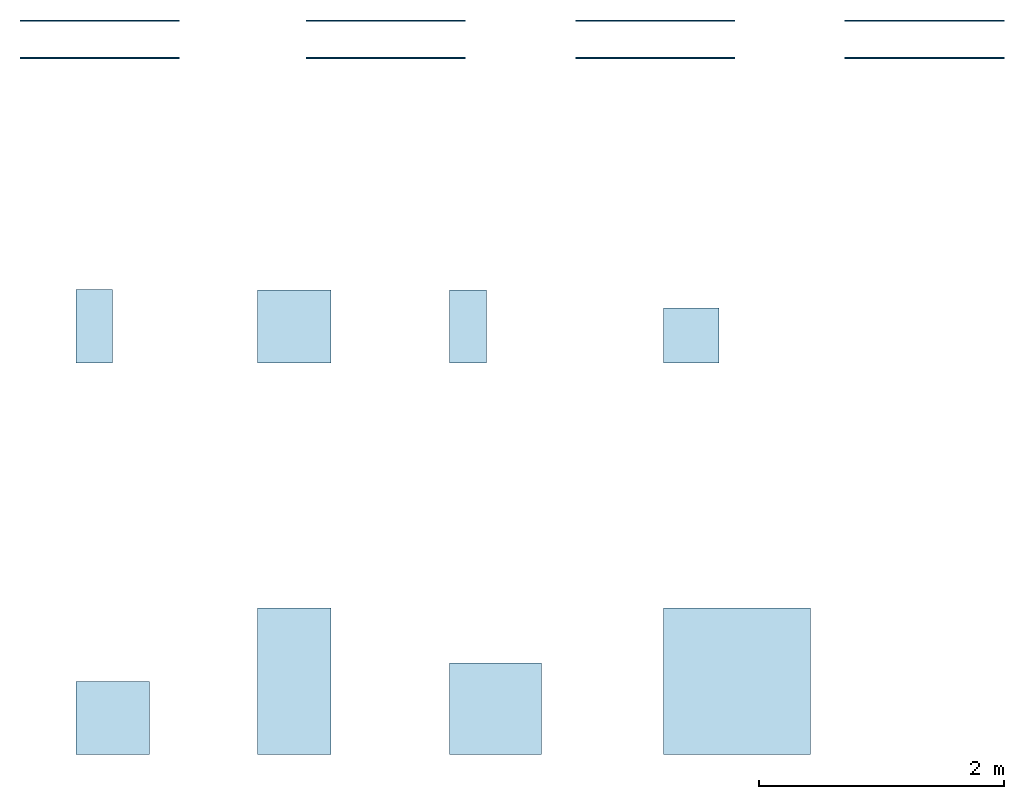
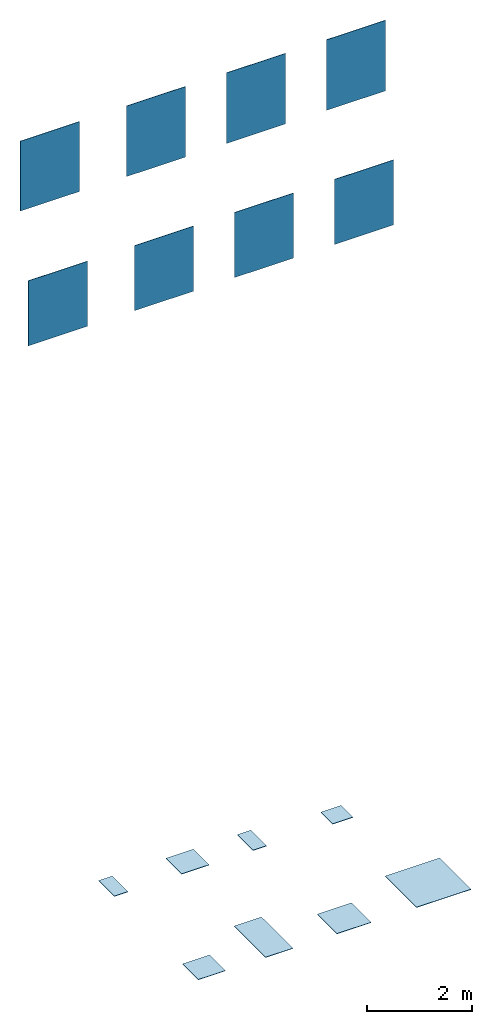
# One storey: 8 slabs, 8 walls.
"""IFC2X3 building model written with IfcOpenShell, lengths in millimetres."""

from ifc_helpers import new_model, entity, si_unit, converted_unit, derived_unit, direction, frame, frame_2d, origin, origin_2d_with_axis, place, context, subcontext, project, spatial, rectangle, extrude, material, layer, layer_set, layer_usage, type_object, element, save


model = new_model("IFC2X3")

# Units and contexts
model_context = context("Model", 3, precision=0.01, world=origin(), true_north=direction((6.12303176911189e-17, 1.0)))
body_context = subcontext(model_context, "Body", "Model", "MODEL_VIEW")
ifc_project = project(units=[si_unit("LENGTHUNIT", "METRE", prefix="MILLI"), si_unit("AREAUNIT", "SQUARE_METRE"), si_unit("VOLUMEUNIT", "CUBIC_METRE"), converted_unit("PLANEANGLEUNIT", "DEGREE", entity("IfcRatioMeasure", 0.0174532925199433), si_unit("PLANEANGLEUNIT", "RADIAN"), dimensions=[0, 0, 0, 0, 0, 0, 0]), si_unit("MASSUNIT", "GRAM", prefix="KILO"), derived_unit("MASSDENSITYUNIT", [(si_unit("MASSUNIT", "GRAM", prefix="KILO"), 1), (si_unit("LENGTHUNIT", "METRE"), -3)]), derived_unit("MOMENTOFINERTIAUNIT", [(si_unit("LENGTHUNIT", "METRE"), 4)]), si_unit("TIMEUNIT", "SECOND"), si_unit("FREQUENCYUNIT", "HERTZ"), si_unit("THERMODYNAMICTEMPERATUREUNIT", "DEGREE_CELSIUS"), derived_unit("THERMALTRANSMITTANCEUNIT", [(si_unit("MASSUNIT", "GRAM", prefix="KILO"), 1), (si_unit("THERMODYNAMICTEMPERATUREUNIT", "KELVIN"), -1), (si_unit("TIMEUNIT", "SECOND"), -3)]), derived_unit("VOLUMETRICFLOWRATEUNIT", [(si_unit("LENGTHUNIT", "METRE"), 3), (si_unit("TIMEUNIT", "SECOND"), -1)]), si_unit("ELECTRICCURRENTUNIT", "AMPERE"), si_unit("ELECTRICVOLTAGEUNIT", "VOLT"), si_unit("POWERUNIT", "WATT"), si_unit("FORCEUNIT", "NEWTON", prefix="KILO"), si_unit("ILLUMINANCEUNIT", "LUX"), si_unit("LUMINOUSFLUXUNIT", "LUMEN"), si_unit("LUMINOUSINTENSITYUNIT", "CANDELA"), derived_unit("USERDEFINED", [(si_unit("MASSUNIT", "GRAM", prefix="KILO"), -1), (si_unit("LENGTHUNIT", "METRE"), -2), (si_unit("TIMEUNIT", "SECOND"), 3), (si_unit("LUMINOUSFLUXUNIT", "LUMEN"), 1)]), derived_unit("LINEARVELOCITYUNIT", [(si_unit("LENGTHUNIT", "METRE"), 1), (si_unit("TIMEUNIT", "SECOND"), -1)]), si_unit("PRESSUREUNIT", "PASCAL"), derived_unit("USERDEFINED", [(si_unit("LENGTHUNIT", "METRE"), -2), (si_unit("MASSUNIT", "GRAM", prefix="KILO"), 1), (si_unit("TIMEUNIT", "SECOND"), -2)]), derived_unit("LINEARFORCEUNIT", [(si_unit("MASSUNIT", "GRAM", prefix="KILO"), 1), (si_unit("LENGTHUNIT", "METRE"), 1), (si_unit("TIMEUNIT", "SECOND"), -2), (si_unit("LENGTHUNIT", "METRE"), -1)]), derived_unit("PLANARFORCEUNIT", [(si_unit("MASSUNIT", "GRAM", prefix="KILO"), 1), (si_unit("LENGTHUNIT", "METRE"), 1), (si_unit("TIMEUNIT", "SECOND"), -2), (si_unit("LENGTHUNIT", "METRE"), -2)])], contexts=[model_context])

# Site, building, storey
site_placement = place(None, origin())
site = spatial("IfcSite", under=ifc_project, at=site_placement, Name="Default", CompositionType="ELEMENT")
building_placement = place(site_placement, origin())
building = spatial("IfcBuilding", under=site, at=building_placement, CompositionType="ELEMENT")
storey_placement = place(building_placement, origin())
storey = spatial("IfcBuildingStorey", under=building, at=storey_placement, Name="Level 0", CompositionType="ELEMENT", Elevation=0.0)

# Slabs
ifc_material_1 = material(Name="Creos-Mud-30x60 ND05")
ifc_layer_1 = layer(ifc_material_1, 9.0)
ifc_material_2 = material(Name="<Unnamed>")
ifc_layer_2 = layer(ifc_material_2, 1.0)
ifc_layer_set_1 = layer_set([ifc_layer_1, ifc_layer_2], Name="Floor:Floor_Tiles_Refin-Creos-Mud-30x60 ND05")
ifc_layer_usage_1 = layer_usage(ifc_layer_set_1, "AXIS3", "POSITIVE", 0.0)
slab_type_1 = type_object("IfcSlabType", Name="Floor:Floor_Tiles_Refin-Creos-Mud-30x60 ND05", PredefinedType="FLOOR", material=ifc_layer_set_1)
slab_1_placement = place(storey_placement, origin())
element("IfcSlab", 1, at=slab_1_placement, inside=storey, type_object=slab_type_1, material=ifc_layer_usage_1, Name="Floor:Floor_Tiles_Refin-Creos-Mud-30x60 ND05", ObjectType="Floor:Floor_Tiles_Refin-Creos-Mud-30x60 ND05", PredefinedType="FLOOR", context=body_context, shape_type="SweptSolid", body=[
    extrude(rectangle(XDim=600.0, YDim=300.0, at=frame_2d((0.0, -5.40012479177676e-13), x_axis=(1.0, 0.0))), frame((6524.37520617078, 5639.4623742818, 0.0), z_axis=(0.0, 0.0, -1.0), x_axis=(0.0, 1.0, 0.0)), (0.0, 0.0, 1.0), 10.0),
])
ifc_material_3 = material(Name="Creos-Mud-60x60 NA56")
ifc_layer_3 = layer(ifc_material_3, 9.0)
ifc_layer_4 = layer(ifc_material_2, 1.0)
ifc_layer_set_2 = layer_set([ifc_layer_3, ifc_layer_4], Name="Floor:Floor_Tiles_Refin-Creos-Mud-60x60 NA56")
ifc_layer_usage_2 = layer_usage(ifc_layer_set_2, "AXIS3", "POSITIVE", 0.0)
slab_type_2 = type_object("IfcSlabType", Name="Floor:Floor_Tiles_Refin-Creos-Mud-60x60 NA56", PredefinedType="FLOOR", material=ifc_layer_set_2)
slab_2_placement = place(storey_placement, origin())
element("IfcSlab", 2, at=slab_2_placement, inside=storey, type_object=slab_type_2, material=ifc_layer_usage_2, Name="Floor:Floor_Tiles_Refin-Creos-Mud-60x60 NA56", ObjectType="Floor:Floor_Tiles_Refin-Creos-Mud-60x60 NA56", PredefinedType="FLOOR", context=body_context, shape_type="SweptSolid", body=[
    extrude(rectangle(XDim=600.0, YDim=600.0, at=frame_2d((0.0, -1.08002495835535e-12), x_axis=(1.0, 0.0))), frame((8157.39240545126, 5638.41920639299, 0.0), z_axis=(0.0, 0.0, -1.0), x_axis=(0.0, 1.0, 0.0)), (0.0, 0.0, 1.0), 10.0),
])
ifc_material_4 = material(Name="Creos-Mud-Soft-30x60 ND06")
ifc_layer_5 = layer(ifc_material_4, 9.0)
ifc_layer_6 = layer(ifc_material_2, 1.0)
ifc_layer_set_3 = layer_set([ifc_layer_5, ifc_layer_6], Name="Floor:Floor_Tiles_Refin-Creos-Mud-Soft-30x60 ND06")
ifc_layer_usage_3 = layer_usage(ifc_layer_set_3, "AXIS3", "POSITIVE", 0.0)
slab_type_3 = type_object("IfcSlabType", Name="Floor:Floor_Tiles_Refin-Creos-Mud-Soft-30x60 ND06", PredefinedType="FLOOR", material=ifc_layer_set_3)
slab_3_placement = place(storey_placement, origin())
element("IfcSlab", 3, at=slab_3_placement, inside=storey, type_object=slab_type_3, material=ifc_layer_usage_3, Name="Floor:Floor_Tiles_Refin-Creos-Mud-Soft-30x60 ND06", ObjectType="Floor:Floor_Tiles_Refin-Creos-Mud-Soft-30x60 ND06", PredefinedType="FLOOR", context=body_context, shape_type="SweptSolid", body=[
    extrude(rectangle(XDim=600.0, YDim=300.000000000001, at=origin_2d_with_axis()), frame((9577.18614186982, 5638.41920639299, 0.0), z_axis=(0.0, 0.0, -1.0), x_axis=(0.0, 1.0, 0.0)), (0.0, 0.0, 1.0), 10.0),
])
ifc_material_5 = material(Name="Creos-Mud-Soft-60x60 NA57")
ifc_layer_7 = layer(ifc_material_5, 9.0)
ifc_layer_8 = layer(ifc_material_2, 1.0)
ifc_layer_set_4 = layer_set([ifc_layer_7, ifc_layer_8], Name="Floor:Floor_Tiles_Refin-Creos-Mud-Soft-60x60 NA57")
ifc_layer_usage_4 = layer_usage(ifc_layer_set_4, "AXIS3", "POSITIVE", 0.0)
slab_type_4 = type_object("IfcSlabType", Name="Floor:Floor_Tiles_Refin-Creos-Mud-Soft-60x60 NA57", PredefinedType="FLOOR", material=ifc_layer_set_4)
slab_4_placement = place(storey_placement, origin())
element("IfcSlab", 4, at=slab_4_placement, inside=storey, type_object=slab_type_4, material=ifc_layer_usage_4, Name="Floor:Floor_Tiles_Refin-Creos-Mud-Soft-60x60 NA57", ObjectType="Floor:Floor_Tiles_Refin-Creos-Mud-Soft-60x60 NA57", PredefinedType="FLOOR", context=body_context, shape_type="SweptSolid", body=[
    extrude(rectangle(XDim=600.0, YDim=600.0, at=frame_2d((0.0, 1.08002495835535e-12), x_axis=(1.0, 0.0))), frame((6674.37520617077, 2439.46237428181, 0.0), z_axis=(0.0, 0.0, -1.0), x_axis=(0.0, 1.0, 0.0)), (0.0, 0.0, 1.0), 10.0),
])
ifc_material_6 = material(Name="Creos-Mud-Soft-75x75 NU54")
ifc_layer_9 = layer(ifc_material_6, 9.0)
ifc_layer_10 = layer(ifc_material_2, 1.0)
ifc_layer_set_5 = layer_set([ifc_layer_9, ifc_layer_10], Name="Floor:Floor_Tiles_Refin-Creos-Mud-Soft-75x75 NU54")
ifc_layer_usage_5 = layer_usage(ifc_layer_set_5, "AXIS3", "POSITIVE", 0.0)
slab_type_5 = type_object("IfcSlabType", Name="Floor:Floor_Tiles_Refin-Creos-Mud-Soft-75x75 NU54", PredefinedType="FLOOR", material=ifc_layer_set_5)
slab_5_placement = place(storey_placement, origin())
element("IfcSlab", 5, at=slab_5_placement, inside=storey, type_object=slab_type_5, material=ifc_layer_usage_5, Name="Floor:Floor_Tiles_Refin-Creos-Mud-Soft-75x75 NU54", ObjectType="Floor:Floor_Tiles_Refin-Creos-Mud-Soft-75x75 NU54", PredefinedType="FLOOR", context=body_context, shape_type="SweptSolid", body=[
    extrude(rectangle(XDim=750.0, YDim=750.000000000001, at=frame_2d((-2.55795384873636e-13, 1.08002495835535e-12), x_axis=(1.0, 0.0))), frame((9802.18614186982, 2514.4623742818, 0.0), z_axis=(0.0, 0.0, -1.0), x_axis=(0.0, 1.0, 0.0)), (0.0, 0.0, 1.0), 10.0),
])
ifc_material_7 = material(Name="Creos-Mud-Soft-45x45 ND70")
ifc_layer_11 = layer(ifc_material_7, 9.5)
ifc_layer_12 = layer(ifc_material_2, 1.0)
ifc_layer_set_6 = layer_set([ifc_layer_11, ifc_layer_12], Name="Floor:Floor_Tiles_Refin-Creos-Mud-Soft-45x45 ND70")
ifc_layer_usage_6 = layer_usage(ifc_layer_set_6, "AXIS3", "POSITIVE", 0.0)
slab_type_6 = type_object("IfcSlabType", Name="Floor:Floor_Tiles_Refin-Creos-Mud-Soft-45x45 ND70", PredefinedType="FLOOR", material=ifc_layer_set_6)
slab_6_placement = place(storey_placement, origin())
element("IfcSlab", 6, at=slab_6_placement, inside=storey, type_object=slab_type_6, material=ifc_layer_usage_6, Name="Floor:Floor_Tiles_Refin-Creos-Mud-Soft-45x45 ND70", ObjectType="Floor:Floor_Tiles_Refin-Creos-Mud-Soft-45x45 ND70", PredefinedType="FLOOR", context=body_context, shape_type="SweptSolid", body=[
    extrude(rectangle(XDim=450.000000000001, YDim=449.999999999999, at=frame_2d((-5.40012479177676e-13, -1.08002495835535e-12), x_axis=(1.0, 0.0))), frame((11402.1861418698, 5563.41920639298, 0.0), z_axis=(0.0, 0.0, -1.0), x_axis=(0.0, 1.0, 0.0)), (0.0, 0.0, 1.0), 10.5),
])
ifc_material_8 = material(Name="Creos-Mud-Soft-60x120 NA68")
ifc_layer_13 = layer(ifc_material_8, 9.0)
ifc_layer_14 = layer(ifc_material_2, 1.0)
ifc_layer_set_7 = layer_set([ifc_layer_13, ifc_layer_14], Name="Floor:Floor_Tiles_Refin-Creos-Mud-Soft-60x120 NA68")
ifc_layer_usage_7 = layer_usage(ifc_layer_set_7, "AXIS3", "POSITIVE", 0.0)
slab_type_7 = type_object("IfcSlabType", Name="Floor:Floor_Tiles_Refin-Creos-Mud-Soft-60x120 NA68", PredefinedType="FLOOR", material=ifc_layer_set_7)
slab_7_placement = place(storey_placement, origin())
element("IfcSlab", 7, at=slab_7_placement, inside=storey, type_object=slab_type_7, material=ifc_layer_usage_7, Name="Floor:Floor_Tiles_Refin-Creos-Mud-Soft-60x120 NA68", ObjectType="Floor:Floor_Tiles_Refin-Creos-Mud-Soft-60x120 NA68", PredefinedType="FLOOR", context=body_context, shape_type="SweptSolid", body=[
    extrude(rectangle(XDim=1200.0, YDim=600.0, at=frame_2d((0.0, 1.08002495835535e-12), x_axis=(1.0, 0.0))), frame((8157.39240545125, 2739.46237428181, 0.0), z_axis=(0.0, 0.0, -1.0), x_axis=(0.0, 1.0, 0.0)), (0.0, 0.0, 1.0), 10.0),
])
ifc_material_9 = material(Name="Creos-Mud-Soft-120x120 MK26")
ifc_layer_15 = layer(ifc_material_9, 9.0)
ifc_layer_16 = layer(ifc_material_2, 1.0)
ifc_layer_set_8 = layer_set([ifc_layer_15, ifc_layer_16], Name="Floor:Floor_Tiles_Refin-Creos-Mud-Soft-120x120 MK26")
ifc_layer_usage_8 = layer_usage(ifc_layer_set_8, "AXIS3", "POSITIVE", 0.0)
slab_type_8 = type_object("IfcSlabType", Name="Floor:Floor_Tiles_Refin-Creos-Mud-Soft-120x120 MK26", PredefinedType="FLOOR", material=ifc_layer_set_8)
slab_8_placement = place(storey_placement, origin())
element("IfcSlab", 8, at=slab_8_placement, inside=storey, type_object=slab_type_8, material=ifc_layer_usage_8, Name="Floor:Floor_Tiles_Refin-Creos-Mud-Soft-120x120 MK26", ObjectType="Floor:Floor_Tiles_Refin-Creos-Mud-Soft-120x120 MK26", PredefinedType="FLOOR", context=body_context, shape_type="SweptSolid", body=[
    extrude(rectangle(XDim=1200.0, YDim=1200.0, at=origin_2d_with_axis()), frame((11777.1861418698, 2739.46237428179, 0.0), z_axis=(0.0, 0.0, -1.0), x_axis=(0.0, 1.0, 0.0)), (0.0, 0.0, 1.0), 10.0),
])

# Walls
ifc_layer_17 = layer(ifc_material_2, 1.0)
ifc_layer_18 = layer(ifc_material_3, 9.0)
ifc_layer_set_9 = layer_set([ifc_layer_17, ifc_layer_18], Name="Basic Wall:Wall_Tiles_Refin-Creos-Mud-60x60 NA56")
ifc_layer_usage_9 = layer_usage(ifc_layer_set_9, "AXIS2", "NEGATIVE", 5.0)
wall_type_1 = type_object("IfcWallType", Name="Basic Wall:Wall_Tiles_Refin-Creos-Mud-60x60 NA56", PredefinedType="STANDARD", material=ifc_layer_set_9)
wall_1_placement = place(storey_placement, frame((8257.37520617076, 8137.38386313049, 14387.6770443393)))
element("IfcWallStandardCase", 9, at=wall_1_placement, inside=storey, type_object=wall_type_1, material=ifc_layer_usage_9, Name="Basic Wall:Wall_Tiles_Refin-Creos-Mud-60x60 NA56", ObjectType="Basic Wall:Wall_Tiles_Refin-Creos-Mud-60x60 NA56", context=body_context, shape_type="SweptSolid", body=[
    extrude(rectangle(XDim=1300.0, YDim=9.99999999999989, at=frame_2d((650.0, 7.63833440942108e-14), x_axis=(-1.0, 0.0))), origin(), (0.0, 0.0, 1.0), 1641.74173522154),
])
ifc_layer_19 = layer(ifc_material_2, 1.0)
ifc_layer_20 = layer(ifc_material_4, 9.0)
ifc_layer_set_10 = layer_set([ifc_layer_19, ifc_layer_20], Name="Basic Wall:Wall_Tiles_Refin-Creos-Mud-Soft-30x60 ND06")
ifc_layer_usage_10 = layer_usage(ifc_layer_set_10, "AXIS2", "NEGATIVE", 5.0)
wall_type_2 = type_object("IfcWallType", Name="Basic Wall:Wall_Tiles_Refin-Creos-Mud-Soft-30x60 ND06", PredefinedType="STANDARD", material=ifc_layer_set_10)
wall_2_placement = place(storey_placement, frame((10457.3752061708, 8137.38386313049, 14387.6770443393)))
element("IfcWallStandardCase", 10, at=wall_2_placement, inside=storey, type_object=wall_type_2, material=ifc_layer_usage_10, Name="Basic Wall:Wall_Tiles_Refin-Creos-Mud-Soft-30x60 ND06", ObjectType="Basic Wall:Wall_Tiles_Refin-Creos-Mud-Soft-30x60 ND06", context=body_context, shape_type="SweptSolid", body=[
    extrude(rectangle(XDim=1300.0, YDim=9.99999999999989, at=frame_2d((650.0, 7.63833440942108e-14), x_axis=(-1.0, 0.0))), origin(), (0.0, 0.0, 1.0), 1641.74173522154),
])
ifc_layer_21 = layer(ifc_material_2, 1.0)
ifc_layer_22 = layer(ifc_material_1, 9.0)
ifc_layer_set_11 = layer_set([ifc_layer_21, ifc_layer_22], Name="Basic Wall:Wall_Tiles_Refin-Creos-Mud-30x60 ND05")
ifc_layer_usage_11 = layer_usage(ifc_layer_set_11, "AXIS2", "NEGATIVE", 5.0)
wall_type_3 = type_object("IfcWallType", Name="Basic Wall:Wall_Tiles_Refin-Creos-Mud-30x60 ND05", PredefinedType="STANDARD", material=ifc_layer_set_11)
wall_3_placement = place(storey_placement, frame((5917.37520617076, 8137.38386313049, 14403.726734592)))
element("IfcWallStandardCase", 11, at=wall_3_placement, inside=storey, type_object=wall_type_3, material=ifc_layer_usage_11, Name="Basic Wall:Wall_Tiles_Refin-Creos-Mud-30x60 ND05", ObjectType="Basic Wall:Wall_Tiles_Refin-Creos-Mud-30x60 ND05", context=body_context, shape_type="SweptSolid", body=[
    extrude(rectangle(XDim=1300.0, YDim=9.99999999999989, at=frame_2d((650.0, 7.63833440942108e-14), x_axis=(-1.0, 0.0))), origin(), (0.0, 0.0, 1.0), 1625.69204496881),
])
ifc_layer_23 = layer(ifc_material_2, 1.0)
ifc_layer_24 = layer(ifc_material_5, 9.0)
ifc_layer_set_12 = layer_set([ifc_layer_23, ifc_layer_24], Name="Basic Wall:Wall_Tiles_Refin-Creos-Mud-Soft-60x60 NA57")
ifc_layer_usage_12 = layer_usage(ifc_layer_set_12, "AXIS2", "NEGATIVE", 5.0)
wall_type_4 = type_object("IfcWallType", Name="Basic Wall:Wall_Tiles_Refin-Creos-Mud-Soft-60x60 NA57", PredefinedType="STANDARD", material=ifc_layer_set_12)
wall_4_placement = place(storey_placement, frame((5917.37520617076, 7832.38386313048, 11452.5436262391)))
element("IfcWallStandardCase", 12, at=wall_4_placement, inside=storey, type_object=wall_type_4, material=ifc_layer_usage_12, Name="Basic Wall:Wall_Tiles_Refin-Creos-Mud-Soft-60x60 NA57", ObjectType="Basic Wall:Wall_Tiles_Refin-Creos-Mud-Soft-60x60 NA57", context=body_context, shape_type="SweptSolid", body=[
    extrude(rectangle(XDim=1300.0, YDim=9.99999999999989, at=frame_2d((650.0, 0.0), x_axis=(-1.0, 0.0))), origin(), (0.0, 0.0, 1.0), 1513.19855655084),
])
ifc_layer_25 = layer(ifc_material_2, 1.0)
ifc_layer_26 = layer(ifc_material_8, 9.0)
ifc_layer_set_13 = layer_set([ifc_layer_25, ifc_layer_26], Name="Basic Wall:Wall_Tiles_Refin-Creos-Mud-Soft-60x120 NA68")
ifc_layer_usage_13 = layer_usage(ifc_layer_set_13, "AXIS2", "NEGATIVE", 5.0)
wall_type_5 = type_object("IfcWallType", Name="Basic Wall:Wall_Tiles_Refin-Creos-Mud-Soft-60x120 NA68", PredefinedType="STANDARD", material=ifc_layer_set_13)
wall_5_placement = place(storey_placement, frame((8257.37520617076, 7832.38386313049, 11452.5436262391)))
element("IfcWallStandardCase", 13, at=wall_5_placement, inside=storey, type_object=wall_type_5, material=ifc_layer_usage_13, Name="Basic Wall:Wall_Tiles_Refin-Creos-Mud-Soft-60x120 NA68", ObjectType="Basic Wall:Wall_Tiles_Refin-Creos-Mud-Soft-60x120 NA68", context=body_context, shape_type="SweptSolid", body=[
    extrude(rectangle(XDim=1300.0, YDim=9.99999999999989, at=frame_2d((650.0, 0.0), x_axis=(-1.0, 0.0))), origin(), (0.0, 0.0, 1.0), 1513.19855655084),
])
ifc_layer_27 = layer(ifc_material_2, 1.0)
ifc_layer_28 = layer(ifc_material_6, 9.0)
ifc_layer_set_14 = layer_set([ifc_layer_27, ifc_layer_28], Name="Basic Wall:Wall_Tiles_Refin-Creos-Mud-Soft-75x75 NU54")
ifc_layer_usage_14 = layer_usage(ifc_layer_set_14, "AXIS2", "NEGATIVE", 5.0)
wall_type_6 = type_object("IfcWallType", Name="Basic Wall:Wall_Tiles_Refin-Creos-Mud-Soft-75x75 NU54", PredefinedType="STANDARD", material=ifc_layer_set_14)
wall_6_placement = place(storey_placement, frame((10457.3752061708, 7832.38386313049, 11452.5436262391)))
element("IfcWallStandardCase", 14, at=wall_6_placement, inside=storey, type_object=wall_type_6, material=ifc_layer_usage_14, Name="Basic Wall:Wall_Tiles_Refin-Creos-Mud-Soft-75x75 NU54", ObjectType="Basic Wall:Wall_Tiles_Refin-Creos-Mud-Soft-75x75 NU54", context=body_context, shape_type="SweptSolid", body=[
    extrude(rectangle(XDim=1300.0, YDim=9.99999999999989, at=frame_2d((650.000000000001, 0.0), x_axis=(-1.0, 0.0))), origin(), (0.0, 0.0, 1.0), 1513.19855655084),
])
ifc_layer_29 = layer(ifc_material_2, 1.0)
ifc_layer_30 = layer(ifc_material_7, 9.5)
ifc_layer_set_15 = layer_set([ifc_layer_29, ifc_layer_30], Name="Basic Wall:Wall_Tiles_Refin-Creos-Mud-Soft-45x45 ND70")
ifc_layer_usage_15 = layer_usage(ifc_layer_set_15, "AXIS2", "NEGATIVE", 5.25)
wall_type_7 = type_object("IfcWallType", Name="Basic Wall:Wall_Tiles_Refin-Creos-Mud-Soft-45x45 ND70", PredefinedType="STANDARD", material=ifc_layer_set_15)
wall_7_placement = place(storey_placement, frame((12657.3752061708, 8137.3838631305, 14387.6770443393)))
element("IfcWallStandardCase", 15, at=wall_7_placement, inside=storey, type_object=wall_type_7, material=ifc_layer_usage_15, Name="Basic Wall:Wall_Tiles_Refin-Creos-Mud-Soft-45x45 ND70", ObjectType="Basic Wall:Wall_Tiles_Refin-Creos-Mud-Soft-45x45 ND70", context=body_context, shape_type="SweptSolid", body=[
    extrude(rectangle(XDim=1300.0, YDim=10.4999999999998, at=frame_2d((650.0, 7.63833440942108e-14), x_axis=(-1.0, 0.0))), origin(), (0.0, 0.0, 1.0), 1641.74173522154),
])
ifc_layer_31 = layer(ifc_material_2, 1.0)
ifc_layer_32 = layer(ifc_material_9, 9.0)
ifc_layer_set_16 = layer_set([ifc_layer_31, ifc_layer_32], Name="Basic Wall:Wall_Tiles_Refin-Creos-Mud-Soft-120x120 MK26")
ifc_layer_usage_16 = layer_usage(ifc_layer_set_16, "AXIS2", "NEGATIVE", 5.0)
wall_type_8 = type_object("IfcWallType", Name="Basic Wall:Wall_Tiles_Refin-Creos-Mud-Soft-120x120 MK26", PredefinedType="STANDARD", material=ifc_layer_set_16)
wall_8_placement = place(storey_placement, frame((12657.3752061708, 7832.3838631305, 11452.5436262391)))
element("IfcWallStandardCase", 16, at=wall_8_placement, inside=storey, type_object=wall_type_8, material=ifc_layer_usage_16, Name="Basic Wall:Wall_Tiles_Refin-Creos-Mud-Soft-120x120 MK26", ObjectType="Basic Wall:Wall_Tiles_Refin-Creos-Mud-Soft-120x120 MK26", context=body_context, shape_type="SweptSolid", body=[
    extrude(rectangle(XDim=1300.0, YDim=9.99999999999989, at=frame_2d((650.0, 0.0), x_axis=(-1.0, 0.0))), origin(), (0.0, 0.0, 1.0), 1513.19855655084),
])

save(model, "model.ifc")
